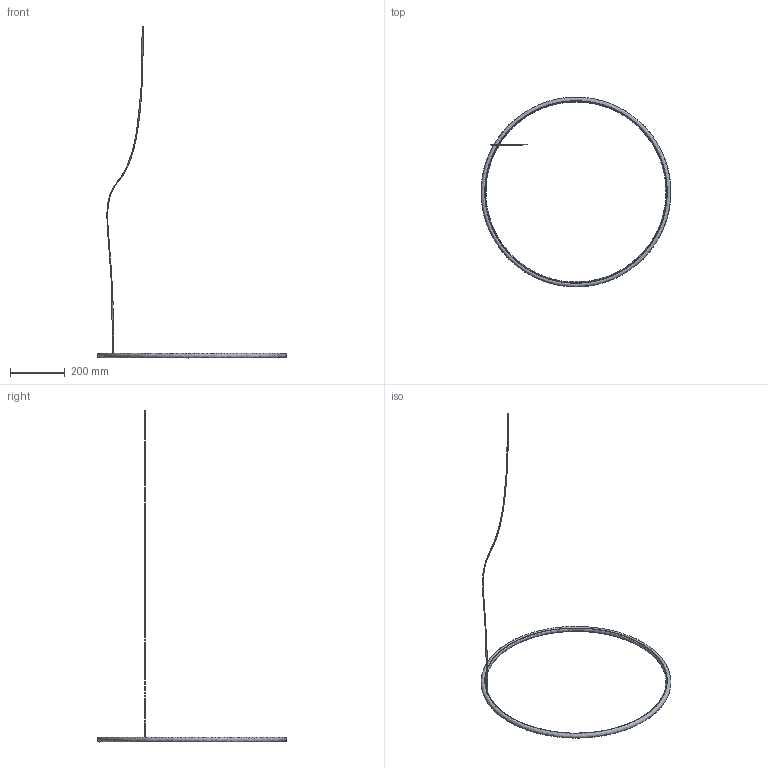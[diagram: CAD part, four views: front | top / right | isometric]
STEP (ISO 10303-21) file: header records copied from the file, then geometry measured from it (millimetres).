
FILE_DESCRIPTION(/* description */ (''),/* implementation_level */ '2;1');
FILE_NAME(/* name */ '1562',/* time_stamp */ '2021-03-01T11:30:42+01:00',/* author */ (''),/* organization */ (''),/* preprocessor_version */ 'ST-DEVELOPER v16.5',/* originating_system */ '',/* authorisation */ '');
FILE_SCHEMA (('CONFIG_CONTROL_DESIGN'));
Length unit declared in the file: millimetre
Products named in the file (1): Document
Bounding box: 692 x 691.99 x 1210.07 mm (x, y, z)
Volume: 142060.6 mm3; surface area: 241865.6 mm2
Topology: 3 solids, 3 shells, 8 faces, 13 edges, 7 vertices
Faces by surface type: bspline 6, plane 2
Entity records: 5434 total; most frequent: CARTESIAN_POINT 5262, ORIENTED_EDGE 26, EDGE_CURVE 13, ADVANCED_FACE 8, FACE_OUTER_BOUND 8, EDGE_LOOP 8, VERTEX_POINT 7, ORGANIZATION 7
